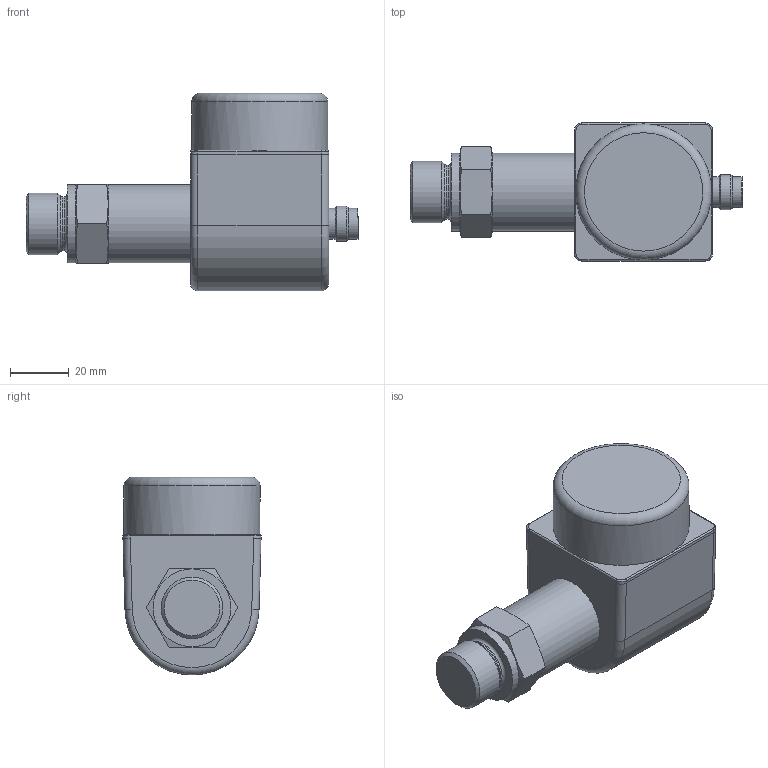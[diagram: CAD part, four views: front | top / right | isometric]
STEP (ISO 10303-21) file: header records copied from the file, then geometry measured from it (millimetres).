
FILE_DESCRIPTION(/* description */ (''),/* implementation_level */ '2;1');
FILE_NAME(/* name */ 'DS200-780-4002-1-2-R-N01-100--1-000.stp',/* time_stamp */ '2024-08-06T13:09:36+02:00',/* author */ ('cz1457'),/* organization */ (''),/* preprocessor_version */ 'ST-DEVELOPER v19.2',/* originating_system */ 'Autodesk Inventor 2023',/* authorisation */ '');
FILE_SCHEMA (('AUTOMOTIVE_DESIGN { 1 0 10303 214 3 1 1 }'));
Length unit declared in the file: millimetre
Products named in the file (1): DS200-780-xxxx-x-x-x-N01-100--x-000
Bounding box: 113 x 47 x 67.35 mm (x, y, z)
Volume: 154885.1 mm3; surface area: 19294.4 mm2
Topology: 1 solids, 1 shells, 66 faces, 143 edges, 84 vertices
Faces by surface type: plane 30, cylinder 21, torus 9, cone 6
Full cylindrical faces by diameter (mm): 10.5 x2, 12 x1, 18.4 x1, 20.955 x1, 26.5 x2, 46.3 x1
Entity records: 1932 total; most frequent: DIRECTION 340, CARTESIAN_POINT 318, ORIENTED_EDGE 286, EDGE_CURVE 143, AXIS2_PLACEMENT_3D 142, VERTEX_POINT 84, EDGE_LOOP 71, CIRCLE 67
